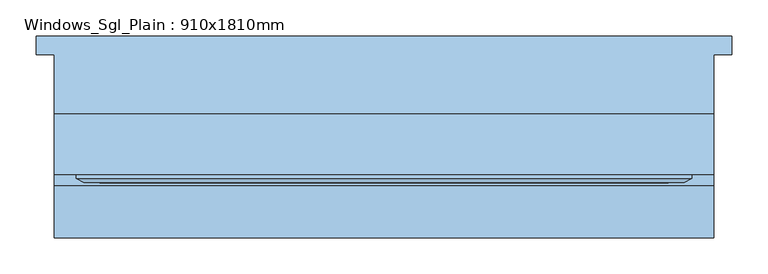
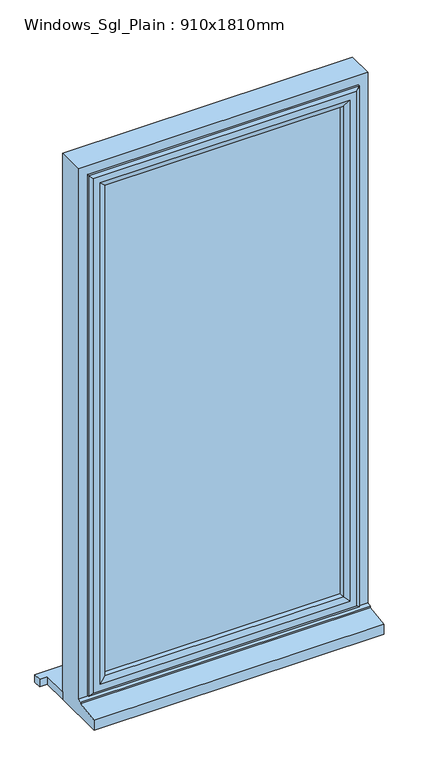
"""IFC4 building model written with IfcOpenShell, lengths in millimetres: window geometry, Windows_Sgl_Plain : 910x1810mm."""

import ifcopenshell
import ifcopenshell.guid

model = None  # the IFC model being written
_history = None  # IfcOwnerHistory: only IFC2X3 demands one
_inside = {}  # id of a spatial element -> (the spatial element, [elements in it])
_under = {}  # id of a project, library or spatial element -> (it, [spatial elements below it])
_declared = {}  # id of a project -> (the project, [libraries it declares])
_typed = {}  # id of a type object -> (the type object, [elements of that type])
_made_of = {}  # id of a material, layer set ... -> (it, [elements and type objects made of it])


def new_model(schema):
    """Start an empty IFC model of exactly this schema.

    Asked for "IFC4X3", IfcOpenShell would pick the latest addendum, in which some entities
    have other attributes; the version numbers below select the first issue.
    IFC2X3 requires an IfcOwnerHistory on every rooted entity: one is made here for all.
    """
    global model, _history
    if schema == "IFC4X3":
        model = ifcopenshell.file(schema_version=(4, 3, 0, 0))
    else:
        model = ifcopenshell.file(schema=schema)
    _inside.clear()
    _under.clear()
    _declared.clear()
    _typed.clear()
    _made_of.clear()
    _history = None
    if model.schema == "IFC2X3":
        org = make("IfcOrganization", Name="unknown")
        user = make(
            "IfcPersonAndOrganization",
            ThePerson=make("IfcPerson", FamilyName="unknown"),
            TheOrganization=org,
        )
        app = make(
            "IfcApplication",
            ApplicationDeveloper=org,
            Version="unknown",
            ApplicationFullName="unknown",
            ApplicationIdentifier="unknown",
        )
        _history = make(
            "IfcOwnerHistory",
            OwningUser=user,
            OwningApplication=app,
            ChangeAction="ADDED",
            CreationDate=0,
        )
    return model


def make(cls, **values):
    """One entity of the class cls with the attributes given. An attribute that is None is left unset."""
    return model.create_entity(
        cls, **{name: value for name, value in values.items() if value is not None}
    )


def rooted(cls, **values):
    """An entity with a GlobalId (a new one), such as an element, a storey or a relation."""
    return make(cls, GlobalId=ifcopenshell.guid.new(), OwnerHistory=_history, **values)


def si_unit(unit_type, name, prefix=None):
    """IfcSIUnit, for example si_unit("LENGTHUNIT", "METRE", prefix="MILLI")."""
    return make("IfcSIUnit", UnitType=unit_type, Prefix=prefix, Name=name)


def assignment(units):
    """IfcUnitAssignment: the units of a project."""
    return None if units is None else make("IfcUnitAssignment", Units=units)


def point(xyz):
    """IfcCartesianPoint."""
    return None if xyz is None else make("IfcCartesianPoint", Coordinates=xyz)


def direction(xyz):
    """IfcDirection."""
    return None if xyz is None else make("IfcDirection", DirectionRatios=xyz)


def frame(location, z_axis=None, x_axis=None):
    """IfcAxis2Placement3D, a coordinate frame: its origin and axes. An axis left out is left unset."""
    return make(
        "IfcAxis2Placement3D",
        Location=point(location),
        Axis=direction(z_axis),
        RefDirection=direction(x_axis),
    )


def origin():
    """The frame at (0, 0, 0) with its axes left unset."""
    return frame((0.0, 0.0, 0.0))


def place(relative_to, where):
    """IfcLocalPlacement: puts the frame where relative to a parent placement (None: the world)."""
    return make(
        "IfcLocalPlacement", PlacementRelTo=relative_to, RelativePlacement=where
    )


def context(
    kind, dimensions, precision=None, world=None, true_north=None, identifier=None
):
    """IfcGeometricRepresentationContext, for example the 3D "Model" context."""
    return make(
        "IfcGeometricRepresentationContext",
        ContextIdentifier=identifier,
        ContextType=kind,
        CoordinateSpaceDimension=dimensions,
        Precision=precision,
        WorldCoordinateSystem=world,
        TrueNorth=true_north,
    )


def project(units=None, contexts=None):
    """IfcProject with its units and contexts."""
    return rooted(
        "IfcProject",
        Name="project",
        RepresentationContexts=contexts,
        UnitsInContext=assignment(units),
    )


def spatial(cls, under=None, at=None, **own):
    """A site, building, storey or space (cls), placed at a placement, below another one or the project."""
    s = rooted(cls, ObjectPlacement=at, **own)
    if under is not None:
        _under.setdefault(under.id(), (under, []))[1].append(s)
    return s


def polyline(points):
    """IfcPolyline through the points."""
    return make("IfcPolyline", Points=[point(p) for p in points])


def outline(outer, holes=None, kind="AREA"):
    """IfcArbitraryClosedProfileDef: a profile drawn as a closed curve; with holes, ...WithVoids."""
    if holes is None:
        return make("IfcArbitraryClosedProfileDef", ProfileType=kind, OuterCurve=outer)
    return make(
        "IfcArbitraryProfileDefWithVoids",
        ProfileType=kind,
        OuterCurve=outer,
        InnerCurves=holes,
    )


def extrude(swept, where, along, depth):
    """IfcExtrudedAreaSolid: the profile swept, set in the frame where, extruded along a direction by depth."""
    return make(
        "IfcExtrudedAreaSolid",
        SweptArea=swept,
        Position=where,
        ExtrudedDirection=direction(along),
        Depth=depth,
    )


def faces_of(points, faces, orient=None, outer=None):
    """IfcFace entities. A face is a list of loops; a loop is a list of indices into points, from 0.

    orient and outer hold one flag for each loop. By default every Orientation is true, the
    first loop of a face is its IfcFaceOuterBound and the others are IfcFaceBound.
    """
    made = []
    for i, loops in enumerate(faces):
        bounds = []
        for j, loop in enumerate(loops):
            is_outer = j == 0 if outer is None else outer[i][j]
            bounds.append(
                make(
                    "IfcFaceOuterBound" if is_outer else "IfcFaceBound",
                    Bound=make("IfcPolyLoop", Polygon=[points[k] for k in loop]),
                    Orientation=True if orient is None else orient[i][j],
                )
            )
        made.append(make("IfcFace", Bounds=bounds))
    return made


def faceted_brep(points, faces, orient=None, outer=None, voids=None):
    """IfcFacetedBrep: a solid bounded by flat faces; with voids (closed shells), ...WithVoids."""
    shared = [point(p) for p in points]
    hull = make("IfcClosedShell", CfsFaces=faces_of(shared, faces, orient, outer))
    if voids is None:
        return make("IfcFacetedBrep", Outer=hull)
    return make(
        "IfcFacetedBrepWithVoids",
        Outer=hull,
        Voids=[
            make(cls, CfsFaces=faces_of(shared, fs, o, b)) for cls, fs, o, b in voids
        ],
    )


def shape(context_of_items, identifier, shape_type, items):
    """IfcShapeRepresentation: the items that make up one representation, for example the "Body"."""
    return make(
        "IfcShapeRepresentation",
        ContextOfItems=context_of_items,
        RepresentationIdentifier=identifier,
        RepresentationType=shape_type,
        Items=items,
    )


def source(mapping_origin, context_of_items, identifier, shape_type, items):
    """IfcRepresentationMap: a shape defined once, which mapped items show again and again."""
    return make(
        "IfcRepresentationMap",
        MappingOrigin=mapping_origin,
        MappedRepresentation=shape(context_of_items, identifier, shape_type, items),
    )


def transform(
    local_origin,
    x_axis=None,
    y_axis=None,
    z_axis=None,
    scale=None,
    scale2=None,
    scale3=None,
    uniform=True,
):
    """IfcCartesianTransformationOperator3D, or its non-uniform kind. x_axis, y_axis, z_axis: its Axis1, 2, 3."""
    if uniform:
        return make(
            "IfcCartesianTransformationOperator3D",
            Axis1=direction(x_axis),
            Axis2=direction(y_axis),
            LocalOrigin=point(local_origin),
            Scale=scale,
            Axis3=direction(z_axis),
        )
    return make(
        "IfcCartesianTransformationOperator3DnonUniform",
        Axis1=direction(x_axis),
        Axis2=direction(y_axis),
        LocalOrigin=point(local_origin),
        Scale=scale,
        Axis3=direction(z_axis),
        Scale2=scale2,
        Scale3=scale3,
    )


def mapped(mapping_source, mapping_target):
    """IfcMappedItem: shows the shape of a source again, moved by a transform."""
    return make(
        "IfcMappedItem", MappingSource=mapping_source, MappingTarget=mapping_target
    )


def made_of(thing, what):
    """Note that an element or type object is made of a material, layer set ...; save() writes the relation."""
    if what is not None:
        _made_of.setdefault(what.id(), (what, []))[1].append(thing)
    return thing


def element(
    cls,
    number,
    at=None,
    inside=None,
    cuts=None,
    type_object=None,
    material=None,
    context=None,
    identifier="Body",
    shape_type=None,
    held_by="IfcProductDefinitionShape",
    body=None,
    shapes=None,
    **own,
):
    """One element of the class cls, such as IfcWall. Its Tag is "e" and its number.

    at: its placement. inside: the storey or other place that contains it. cuts: it is an
    opening in that element (IfcRelVoidsElement). A single representation is given by context,
    identifier, shape_type and body (its items); several are given by shapes. held_by: the class
    of the entity that holds the representations. save() writes the other relations.
    """
    e = rooted(cls, Tag="e%d" % number, ObjectPlacement=at, **own)
    if body is not None:
        shapes = [shape(context, identifier, shape_type, body)]
    if shapes is not None:
        e.Representation = make(held_by, Representations=shapes)
    if inside is not None:
        _inside.setdefault(inside.id(), (inside, []))[1].append(e)
    if cuts is not None:
        rooted(
            "IfcRelVoidsElement", RelatingBuildingElement=cuts, RelatedOpeningElement=e
        )
    if type_object is not None:
        _typed.setdefault(type_object.id(), (type_object, []))[1].append(e)
    return made_of(e, material)


def aggregate(whole, parts):
    """IfcRelAggregates: a whole, such as a stair, and the parts it consists of."""
    return rooted("IfcRelAggregates", RelatingObject=whole, RelatedObjects=parts)


def save(model, path):
    """Write the relations noted so far, then the file.

    IfcRelAggregates (storeys below a building ...), IfcRelContainedInSpatialStructure (elements
    in a storey), IfcRelDefinesByType, IfcRelAssociatesMaterial and IfcRelDeclares: one each for
    every whole, place, type object, material and project.
    """
    for whole, parts in _under.values():
        aggregate(whole, parts)
    for where, things in _inside.values():
        rooted(
            "IfcRelContainedInSpatialStructure",
            RelatedElements=things,
            RelatingStructure=where,
        )
    for kind, things in _typed.values():
        rooted("IfcRelDefinesByType", RelatedObjects=things, RelatingType=kind)
    for what, things in _made_of.values():
        rooted("IfcRelAssociatesMaterial", RelatedObjects=things, RelatingMaterial=what)
    for by, libraries in _declared.values():
        rooted("IfcRelDeclares", RelatingContext=by, RelatedDefinitions=libraries)
    model.write(path)


def windows_sgl_plain_910x1810mm_de3ea6c8(model_context):
    return source(origin(), model_context, "Body", "SolidModel", [
        extrude(outline(polyline([(-480.0, 124.5434322), (480.0, 124.5434322), (480.0, 99.5434322), (455.0, 99.5434322), (455.0, 16.5434322), (-455.0, 16.5434322), (-455.0, 99.5434322), (-480.0, 99.5434322), (-480.0, 124.5434322)])), frame((0.0, 0.0, 300.0), z_axis=(0.0, 0.0, 1.0), x_axis=(1.0, 0.0, 0.0)), (0.0, 0.0, 1.0), 25.0),
        faceted_brep([(-455.0, 16.5434322, 300.0), (-455.0, 16.5434322, 2110.0), (455.0, 16.5434322, 2110.0), (455.0, 16.5434322, 300.0), (-395.0, 16.5434322, 2050.0), (-395.0, 16.5434322, 375.0), (395.0, 16.5434322, 375.0), (395.0, 16.5434322, 2050.0), (-455.0, -153.9565678, 300.0), (-455.0, -153.9565678, 333.8088847), (-455.0, -81.4565678, 344.7449676), (-455.0, -81.4565678, 349.68767), (-455.0, -66.4565678, 351.0), (-455.0, -66.4565678, 2110.0), (455.0, -66.4565678, 351.0), (455.0, -66.4565678, 2110.0), (-415.0, -66.4565678, 2070.0), (415.0, -66.4565678, 2070.0), (415.0, -66.4565678, 363.0), (-415.0, -66.4565678, 363.0), (-415.0, -1.4565678, 363.0), (-415.0, -1.4565678, 2070.0), (415.0, -1.4565678, 363.0), (415.0, -1.4565678, 2070.0), (-395.0, -1.4565678, 2050.0), (395.0, -1.4565678, 2050.0), (395.0, -1.4565678, 375.0), (-395.0, -1.4565678, 375.0), (455.0, -81.4565678, 349.68767), (455.0, -81.4565678, 344.7449676), (455.0, -153.9565678, 333.8088847), (455.0, -153.9565678, 300.0)], [[[0, 1, 2, 3], [4, 5, 6, 7]], [[0, 8, 9, 10, 11, 12, 13, 1]], [[12, 14, 15, 13], [16, 17, 18, 19]], [[19, 20, 21, 16]], [[21, 20, 22, 23], [24, 25, 26, 27]], [[24, 27, 5, 4]], [[1, 13, 15, 2]], [[16, 21, 23, 17]], [[7, 25, 24, 4]], [[14, 28, 29, 30, 31, 3, 2, 15]], [[17, 23, 22, 18]], [[7, 6, 26, 25]], [[31, 8, 0, 3]], [[30, 9, 8, 31]], [[29, 10, 9, 30]], [[28, 11, 10, 29]], [[14, 12, 11, 28]], [[20, 19, 18, 22]], [[5, 27, 26, 6]]]),
        extrude(outline(polyline([(385.0, -30.4565678), (385.0, -54.4565678), (-385.0, -54.4565678), (-385.0, -30.4565678), (385.0, -30.4565678)])), frame((0.0, 0.0, 393.0), z_axis=(0.0, 0.0, 1.0), x_axis=(1.0, 0.0, 0.0)), (0.0, 0.0, 1.0), 1647.0),
        faceted_brep([(-425.0, -66.4565678, 2080.0), (-425.0, -66.4565678, 353.0), (-425.0, -72.2300705, 353.0), (-425.0, -72.2300705, 2080.0), (-415.0, -1.4565678, 2070.0), (-415.0, -1.4565678, 363.0), (-415.0, -66.4565678, 363.0), (-415.0, -66.4565678, 2070.0), (-375.0, -15.9494677, 2030.0), (-375.0, -15.9494677, 403.0), (-385.1480377, -1.4565678, 392.8519623), (-385.1480377, -1.4565678, 2040.1480377), (-375.0, -30.4565678, 2030.0), (-375.0, -30.4565678, 403.0), (-385.0, -54.4565678, 2040.0), (-385.0, -54.4565678, 393.0), (-385.0, -30.4565678, 393.0), (-385.0, -30.4565678, 2040.0), (-375.0, -72.2300705, 2030.0), (-375.0, -72.2300705, 403.0), (-375.0, -54.4565678, 403.0), (-375.0, -54.4565678, 2030.0), (-392.4457548, -78.0035732, 2047.4457548), (-392.4457548, -78.0035732, 385.5542452), (-414.2153903, -78.0035732, 363.7846097), (-414.2153903, -78.0035732, 2069.2153903), (425.0, -66.4565678, 353.0), (425.0, -72.2300705, 353.0), (415.0, -1.4565678, 363.0), (415.0, -66.4565678, 363.0), (375.0, -15.9494677, 403.0), (385.1480377, -1.4565678, 392.8519623), (375.0, -30.4565678, 403.0), (385.0, -54.4565678, 393.0), (385.0, -30.4565678, 393.0), (375.0, -72.2300705, 403.0), (375.0, -54.4565678, 403.0), (392.4457548, -78.0035732, 385.5542452), (414.2153903, -78.0035732, 363.7846097), (425.0, -66.4565678, 2080.0), (425.0, -72.2300705, 2080.0), (415.0, -1.4565678, 2070.0), (415.0, -66.4565678, 2070.0), (375.0, -15.9494677, 2030.0), (385.1480377, -1.4565678, 2040.1480377), (375.0, -30.4565678, 2030.0), (385.0, -54.4565678, 2040.0), (385.0, -30.4565678, 2040.0), (375.0, -72.2300705, 2030.0), (375.0, -54.4565678, 2030.0), (392.4457548, -78.0035732, 2047.4457548), (414.2153903, -78.0035732, 2069.2153903)], [[[0, 1, 2, 3]], [[4, 5, 6, 7]], [[8, 9, 10, 11]], [[12, 13, 9, 8]], [[14, 15, 16, 17]], [[18, 19, 20, 21]], [[22, 23, 19, 18]], [[3, 2, 24, 25]], [[1, 26, 27, 2]], [[5, 28, 29, 6]], [[9, 30, 31, 10]], [[13, 32, 30, 9]], [[15, 33, 34, 16]], [[19, 35, 36, 20]], [[23, 37, 35, 19]], [[2, 27, 38, 24]], [[26, 39, 40, 27]], [[28, 41, 42, 29]], [[30, 43, 44, 31]], [[32, 45, 43, 30]], [[33, 46, 47, 34]], [[35, 48, 49, 36]], [[37, 50, 48, 35]], [[27, 40, 51, 38]], [[39, 0, 3, 40]], [[1, 0, 39, 26], [7, 6, 29, 42]], [[41, 4, 7, 42]], [[5, 4, 41, 28], [11, 10, 31, 44]], [[43, 8, 11, 44]], [[45, 12, 8, 43]], [[17, 16, 34, 47], [13, 12, 45, 32]], [[46, 14, 17, 47]], [[15, 14, 46, 33], [21, 20, 36, 49]], [[48, 18, 21, 49]], [[50, 22, 18, 48]], [[25, 24, 38, 51], [23, 22, 50, 37]], [[40, 3, 25, 51]]]),
    ])


if __name__ == "__main__":
    model = new_model("IFC4")
    model_context = context("Model", 3, world=origin())
    ifc_project = project(units=[si_unit("LENGTHUNIT", "METRE", prefix="MILLI")], contexts=[model_context])
    site = spatial("IfcSite", under=ifc_project)
    building = spatial("IfcBuilding", under=site)
    placement = place(None, origin())
    windows_sgl_plain_910x1810mm_shape = windows_sgl_plain_910x1810mm_de3ea6c8(model_context)
    element("IfcWindow", 1, ObjectType="Windows_Sgl_Plain : 910x1810mm", at=placement, inside=building, context=model_context, shape_type="MappedRepresentation", body=[
        mapped(windows_sgl_plain_910x1810mm_shape, transform((0.0, 0.0, 0.0), x_axis=(1.0, 0.0, 0.0), y_axis=(0.0, 1.0, 0.0), z_axis=(0.0, 0.0, 1.0))),
    ])
    save(model, "model.ifc")
